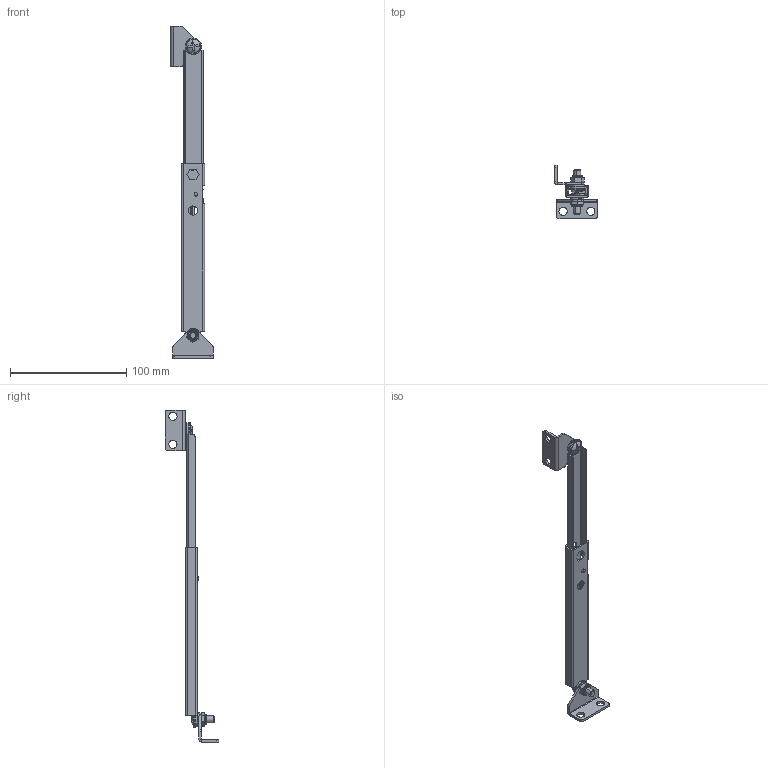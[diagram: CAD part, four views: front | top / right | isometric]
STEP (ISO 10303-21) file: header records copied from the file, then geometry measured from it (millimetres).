
FILE_DESCRIPTION (( 'STEP AP214' ), '1' );
FILE_NAME ('4.401.107.STEP', '2016-09-09T06:56:43', ( '' ), ( '' ), 'SwSTEP 2.0', 'SolidWorks 2015', '' );
FILE_SCHEMA (( 'AUTOMOTIVE_DESIGN' ));
Length unit declared in the file: millimetre
Products named in the file (10): 4.401.105.06_A; 4.401.105.02_A; M6x16-DIN 967_M6x16; M6-DIN985_M6; Podk³adka M6_M6; 4.401.105.04_A; 4.401.105.07_A; 4.401.105.05_A; 4.401.105.01_A; 4.401.107
Assembly tree (13 placements, depth 2):
  4.401.107
    4.401.105.01_A
    4.401.105.05_A
    4.401.105.07_A
    4.401.105.04_A  x2
    Podk³adka M6_M6  x2
    M6-DIN985_M6  x2
    M6x16-DIN 967_M6x16  x2
    4.401.105.02_A
    4.401.105.06_A
Bounding box: 36.7 x 45.8 x 286.1 mm (x, y, z)
Volume: 19878 mm3; surface area: 31097.6 mm2
Topology: 13 solids, 13 shells, 356 faces, 856 edges, 532 vertices
Faces by surface type: plane 193, cylinder 107, cone 32, torus 20, sphere 4
Entity records: 7936 total; most frequent: CARTESIAN_POINT 1385, DIRECTION 1350, ORIENTED_EDGE 1228, EDGE_CURVE 614, AXIS2_PLACEMENT_3D 491, VERTEX_POINT 382, LINE 368, VECTOR 368
